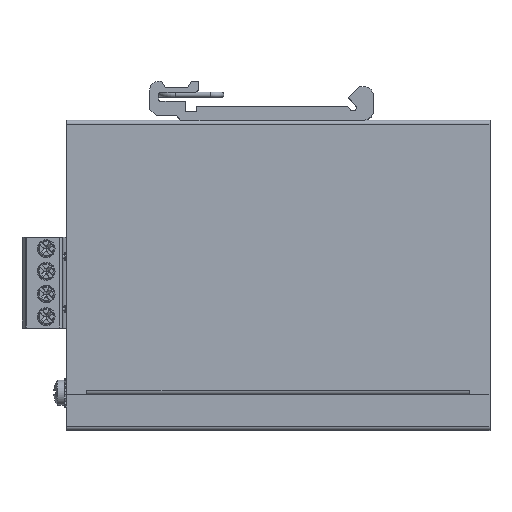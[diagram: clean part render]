
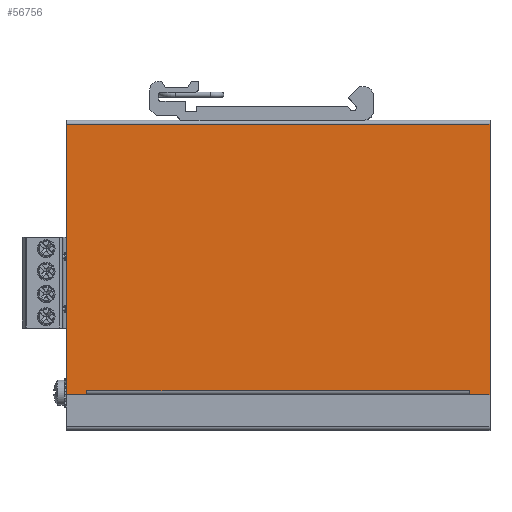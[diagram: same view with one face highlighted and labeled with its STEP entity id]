
A CAD part, top view. The second image highlights one B-rep face of the part: STEP entity #56756.
In plain terms, the highlighted planar face has unit normal (0, 0, 1).
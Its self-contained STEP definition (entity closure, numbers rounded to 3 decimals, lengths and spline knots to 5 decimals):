
#8103=ORIENTED_EDGE('',*,*,#22461,.T.);
#8104=ORIENTED_EDGE('',*,*,#22454,.T.);
#8105=ORIENTED_EDGE('',*,*,#22451,.T.);
#8106=ORIENTED_EDGE('',*,*,#22448,.T.);
#8107=ORIENTED_EDGE('',*,*,#22444,.T.);
#8108=ORIENTED_EDGE('',*,*,#22439,.T.);
#8109=ORIENTED_EDGE('',*,*,#22436,.T.);
#8110=ORIENTED_EDGE('',*,*,#22361,.T.);
#8111=ORIENTED_EDGE('',*,*,#22485,.T.);
#8112=ORIENTED_EDGE('',*,*,#22367,.T.);
#22361=EDGE_CURVE('',#29987,#29985,#35377,.T.);
#22367=EDGE_CURVE('',#29990,#29992,#35383,.F.);
#22436=EDGE_CURVE('',#30050,#29987,#35399,.T.);
#22439=EDGE_CURVE('',#30052,#30050,#35402,.T.);
#22444=EDGE_CURVE('',#30055,#30052,#35407,.T.);
#22448=EDGE_CURVE('',#30057,#30055,#35410,.T.);
#22451=EDGE_CURVE('',#30059,#30057,#35412,.T.);
#22454=EDGE_CURVE('',#30061,#30059,#35415,.T.);
#22461=EDGE_CURVE('',#29992,#30061,#35420,.T.);
#22485=EDGE_CURVE('',#29985,#29990,#35434,.T.);
#29985=VERTEX_POINT('',#88028);
#29987=VERTEX_POINT('',#88031);
#29990=VERTEX_POINT('',#88038);
#29992=VERTEX_POINT('',#88042);
#30050=VERTEX_POINT('',#89096);
#30052=VERTEX_POINT('',#89102);
#30055=VERTEX_POINT('',#89111);
#30057=VERTEX_POINT('',#89119);
#30059=VERTEX_POINT('',#89125);
#30061=VERTEX_POINT('',#89131);
#35377=LINE('',#88030,#41240);
#35383=LINE('',#88043,#41246);
#35399=LINE('',#89095,#41262);
#35402=LINE('',#89101,#41265);
#35407=LINE('',#89110,#41270);
#35410=LINE('',#89118,#41273);
#35412=LINE('',#89124,#41275);
#35415=LINE('',#89130,#41278);
#35420=LINE('',#89143,#41283);
#35434=LINE('',#89191,#41297);
#41240=VECTOR('',#71021,1.);
#41246=VECTOR('',#71029,1.);
#41262=VECTOR('',#71175,1.);
#41265=VECTOR('',#71180,1.);
#41270=VECTOR('',#71187,1.);
#41273=VECTOR('',#71196,1.);
#41275=VECTOR('',#71202,1.);
#41278=VECTOR('',#71207,1.);
#41283=VECTOR('',#71222,1.);
#41297=VECTOR('',#71276,1.);
#47228=EDGE_LOOP('',(#8103,#8104,#8105,#8106,#8107,#8108,#8109,#8110,#8111,
#8112));
#51242=FACE_BOUND('',#47228,.T.);
#54447=PLANE('',#63591);
#56756=ADVANCED_FACE('',(#51242),#54447,.T.);
#63591=AXIS2_PLACEMENT_3D('',#89192,#71277,#71278);
#71021=DIRECTION('',(1.,0.,0.));
#71029=DIRECTION('',(-1.,0.,0.));
#71175=DIRECTION('',(0.,1.,0.));
#71180=DIRECTION('',(1.,0.,0.));
#71187=DIRECTION('',(0.,-1.,0.));
#71196=DIRECTION('',(-1.,0.,0.));
#71202=DIRECTION('',(0.,1.,0.));
#71207=DIRECTION('',(1.,0.,0.));
#71222=DIRECTION('',(0.,-1.,0.));
#71276=DIRECTION('',(1.,0.,0.));
#71277=DIRECTION('',(0.,0.,1.));
#71278=DIRECTION('',(-1.,0.,0.));
#88028=CARTESIAN_POINT('',(-0.0429,-0.01985,0.0402));
#88030=CARTESIAN_POINT('',(0.,-0.01985,0.0402));
#88031=CARTESIAN_POINT('',(-0.04291,-0.01985,0.0402));
#88038=CARTESIAN_POINT('',(0.0429,-0.01985,0.0402));
#88042=CARTESIAN_POINT('',(0.04291,-0.01985,0.0402));
#88043=CARTESIAN_POINT('',(0.,-0.01985,0.0402));
#89095=CARTESIAN_POINT('',(-0.04291,0.0096,0.0402));
#89096=CARTESIAN_POINT('',(-0.04291,-0.02075,0.0402));
#89101=CARTESIAN_POINT('',(-0.0475,-0.02075,0.0402));
#89102=CARTESIAN_POINT('',(-0.0475,-0.02075,0.0402));
#89110=CARTESIAN_POINT('',(-0.0475,0.03995,0.0402));
#89111=CARTESIAN_POINT('',(-0.0475,0.03995,0.0402));
#89118=CARTESIAN_POINT('',(0.0475,0.03995,0.0402));
#89119=CARTESIAN_POINT('',(0.0475,0.03995,0.0402));
#89124=CARTESIAN_POINT('',(0.0475,-0.02075,0.0402));
#89125=CARTESIAN_POINT('',(0.0475,-0.02075,0.0402));
#89130=CARTESIAN_POINT('',(0.0429,-0.02075,0.0402));
#89131=CARTESIAN_POINT('',(0.04291,-0.02075,0.0402));
#89143=CARTESIAN_POINT('',(0.04291,-0.0203,0.0402));
#89191=CARTESIAN_POINT('',(-0.0429,-0.01985,0.0402));
#89192=CARTESIAN_POINT('',(0.,0.0096,0.0402));
